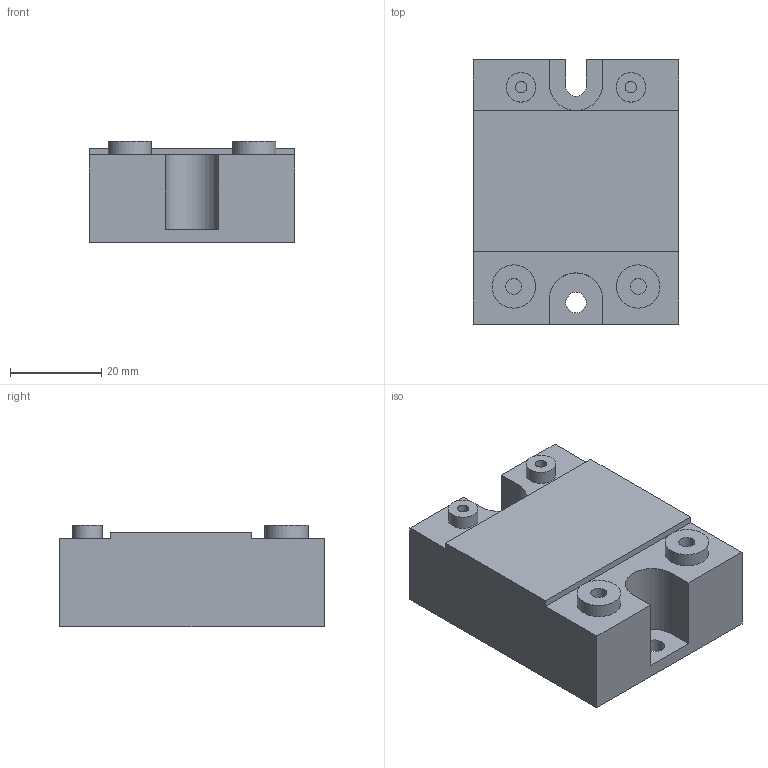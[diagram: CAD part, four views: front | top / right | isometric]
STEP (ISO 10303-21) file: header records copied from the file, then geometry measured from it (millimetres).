
FILE_DESCRIPTION(/* description */ ('Alibre Inc.'),/* implementation_level */ '2;1');
FILE_NAME(/* name */ 'export0',/* time_stamp */ '2013-08-21T12:01:45-06:00',/* author */ (''),/* organization */ (''),/* preprocessor_version */ 'ST-DEVELOPER v14',/* originating_system */ 'Alibre',/* authorisation */ '');
FILE_SCHEMA (('ALIBRE_SCHEMA','CONFIG_CONTROL_DESIGN'));
Length unit declared in the file: centimetre
Products named in the file (1): ID_1
Bounding box: 45 x 58 x 22.3 mm (x, y, z)
Volume: 48912 mm3; surface area: 10550.1 mm2
Topology: 1 solids, 1 shells, 40 faces, 89 edges, 59 vertices
Faces by surface type: plane 28, cylinder 12
Full cylindrical faces by diameter (mm): 2.5 x2, 3.5 x2, 4.5 x1, 6.5 x2, 9.5 x2
Entity records: 3619 total; most frequent: CARTESIAN_POINT 506, CONSTRAINTPAIRUV 307, DIRECTION 282, REFERENCEDEPENDENTUV 274, VECTOR 178, REFERENCEPOINTUV 175, ORIENTED_EDGE 160, LINE 128
